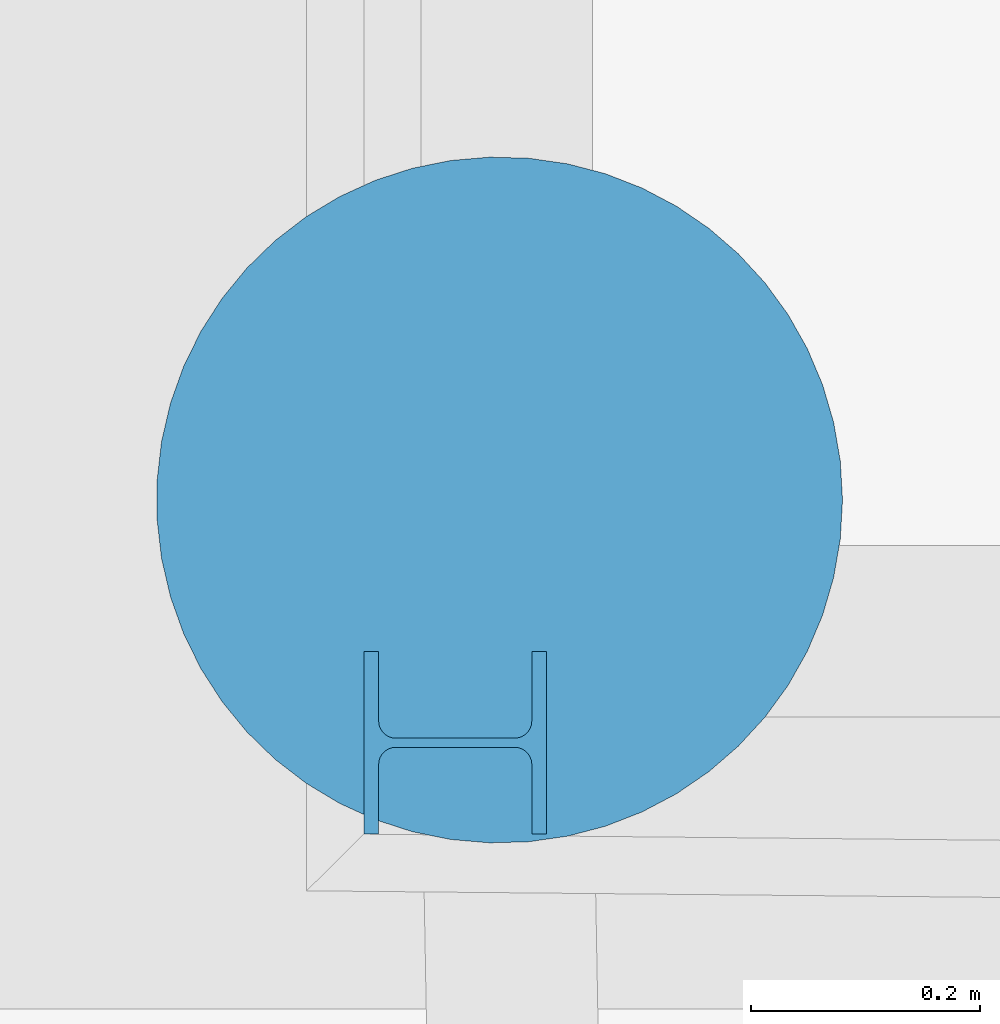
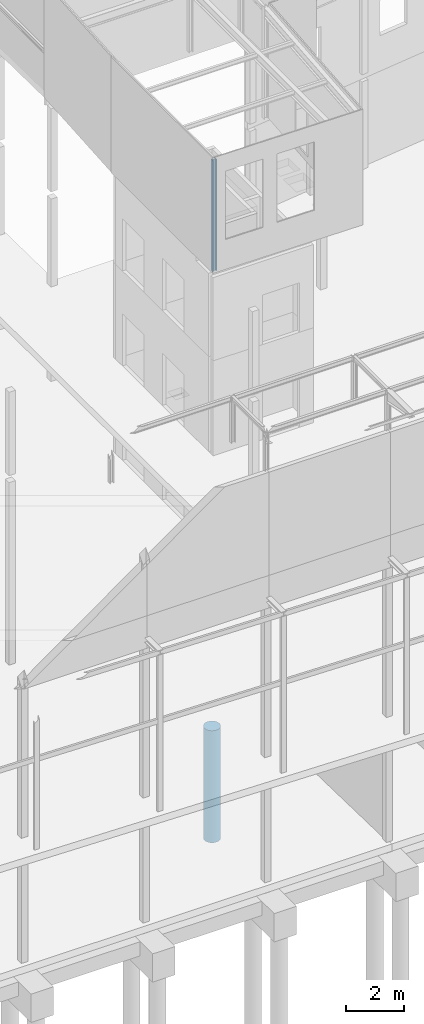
# One storey, part 16 of 82: 2 columns.
"""IFC2X3 building model written with IfcOpenShell, lengths in millimetres."""

from ifc_helpers import new_model, si_unit, frame, frame_2d, origin_with_axes, place, context, subcontext, project, spatial, circle, i_section, extrude, material, type_object, element, save


model = new_model("IFC2X3")

# Units and contexts
model_context = context("Model", 3, precision=1e-05, world=origin_with_axes())
body_context = subcontext(model_context, "Body", "Model", "MODEL_VIEW")
ifc_project = project(units=[si_unit("LENGTHUNIT", "METRE", prefix="MILLI"), si_unit("AREAUNIT", "SQUARE_METRE"), si_unit("VOLUMEUNIT", "CUBIC_METRE"), si_unit("MASSUNIT", "GRAM", prefix="KILO"), si_unit("TIMEUNIT", "SECOND"), si_unit("PLANEANGLEUNIT", "RADIAN"), si_unit("SOLIDANGLEUNIT", "STERADIAN"), si_unit("THERMODYNAMICTEMPERATUREUNIT", "DEGREE_CELSIUS"), si_unit("LUMINOUSINTENSITYUNIT", "LUMEN")], contexts=[model_context])

# Site, building, storey
site_placement = place(None, origin_with_axes())
site = spatial("IfcSite", under=ifc_project, at=site_placement, Name="Undefined", CompositionType="ELEMENT")
building_placement = place(site_placement, origin_with_axes())
building = spatial("IfcBuilding", under=site, at=building_placement, Name="Undefined", CompositionType="ELEMENT")
storey_placement = place(building_placement, origin_with_axes())
storey = spatial("IfcBuildingStorey", under=building, at=storey_placement, Name="Undefined", CompositionType="ELEMENT", Elevation=0.0)

# Columns
ifc_material_1 = material(Name="STEEL/S275JR")
column_type_1 = type_object("IfcColumnType", Name="HEB160", PredefinedType="NOTDEFINED")
column_1_placement = place(storey_placement, frame((29003.7484991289, 11622.4629244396, 17160.0), z_axis=(0.0, 0.0, 1.0), x_axis=(1.0, 0.0, 0.0)))
element("IfcColumn", 1, at=column_1_placement, inside=storey, type_object=column_type_1, material=ifc_material_1, Name="POTEAU", ObjectType="HEB160", context=body_context, shape_type="SweptSolid", body=[
    extrude(i_section(OverallWidth=160.0, OverallDepth=160.0, WebThickness=8.0, FlangeThickness=13.0, FilletRadius=15.0, at=frame_2d((5.17284206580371e-08, 4.49290382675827e-10), x_axis=(1.0, 0.0))), frame((0.0, 0.0, 4735.0), z_axis=(0.0, -6.50000002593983e-08, -0.999999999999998), x_axis=(-2.77555756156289e-17, -1.0, 0.0)), (0.0, 0.0, 1.0), 4735.0),
])
ifc_material_2 = material(Name="CONCRETE/C25/30")
column_type_2 = type_object("IfcColumnType", Name="D600", PredefinedType="NOTDEFINED")
column_2_placement = place(storey_placement, frame((29042.4908589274, 11834.7602401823, -7025.0), z_axis=(0.0, 0.0, 1.0), x_axis=(1.0, 0.0, 0.0)))
element("IfcColumn", 2, at=column_2_placement, inside=storey, type_object=column_type_2, material=ifc_material_2, Name="PIEU", ObjectType="D600", context=body_context, shape_type="SweptSolid", body=[
    extrude(circle(Radius=300.0, at=frame_2d((5.17284206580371e-08, 4.49290382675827e-10), x_axis=(1.0, 0.0))), frame((0.0, 0.0, 4750.0), z_axis=(0.0, -6.50000002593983e-08, -0.999999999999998), x_axis=(1.0, 0.0, 0.0)), (0.0, 0.0, 1.0), 4750.0),
])

save(model, "model.ifc")
